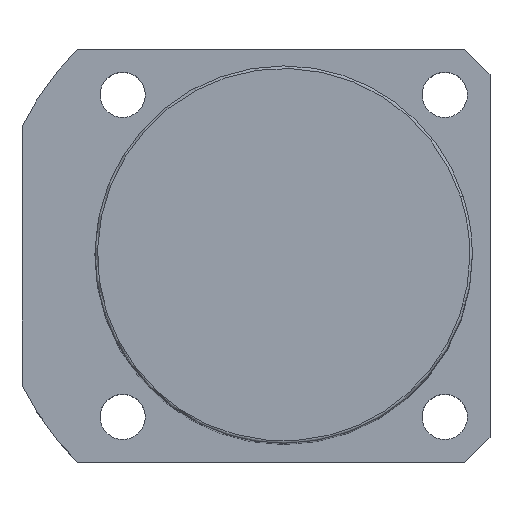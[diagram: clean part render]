
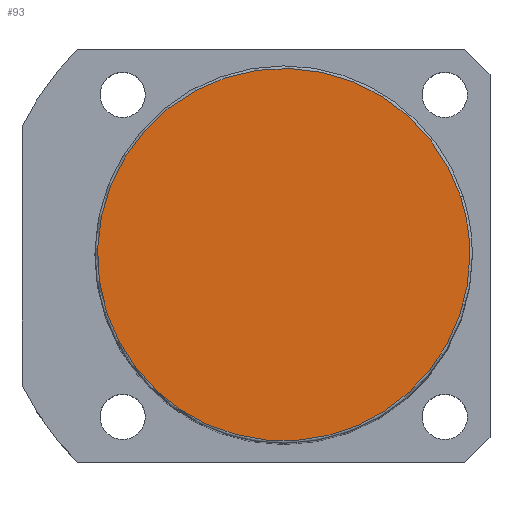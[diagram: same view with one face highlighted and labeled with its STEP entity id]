
A CAD part, top view. The second image highlights one B-rep face of the part: STEP entity #93.
In plain terms, the highlighted planar face has unit normal (0, 0, 1).
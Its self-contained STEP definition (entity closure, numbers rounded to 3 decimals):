
#16=CARTESIAN_POINT('',(35.189,11.434,158.0));
#17=VERTEX_POINT('',#16);
#45=CARTESIAN_POINT('',(-35.189,-11.434,158.0));
#46=VERTEX_POINT('',#45);
#54=CARTESIAN_POINT('',(0.0,0.0,158.0));
#55=DIRECTION('',(0.0,0.0,1.0));
#56=DIRECTION('',(1.0,0.0,0.0));
#57=AXIS2_PLACEMENT_3D('',#54,#55,#56);
#58=CIRCLE('',#57,37.0);
#59=EDGE_CURVE('no 890',#17,#46,#58,.T.);
#69=CARTESIAN_POINT('',(37.0,0.0,158.0));
#70=VERTEX_POINT('',#69);
#71=CARTESIAN_POINT('',(0.0,0.0,158.0));
#72=DIRECTION('',(0.0,0.0,1.0));
#73=DIRECTION('',(1.0,0.0,0.0));
#74=AXIS2_PLACEMENT_3D('',#71,#72,#73);
#75=CIRCLE('',#74,37.0);
#76=EDGE_CURVE('no 899',#70,#17,#75,.T.);
#77=ORIENTED_EDGE('',*,*,#76,.T.);
#78=ORIENTED_EDGE('',*,*,#59,.T.);
#79=CARTESIAN_POINT('',(0.0,0.0,158.0));
#80=DIRECTION('',(0.0,0.0,1.0));
#81=DIRECTION('',(1.0,0.0,0.0));
#82=AXIS2_PLACEMENT_3D('',#79,#80,#81);
#83=CIRCLE('',#82,37.0);
#84=EDGE_CURVE('no 905',#46,#70,#83,.T.);
#85=ORIENTED_EDGE('',*,*,#84,.T.);
#86=EDGE_LOOP('',(#77,#78,#85));
#87=FACE_OUTER_BOUND('',#86,.T.);
#88=CARTESIAN_POINT('',(0.0,0.0,158.0));
#89=DIRECTION('',(0.0,0.0,1.0));
#90=DIRECTION('',(1.0,0.0,0.0));
#91=AXIS2_PLACEMENT_3D('',#88,#89,#90);
#92=PLANE('',#91);
#93=ADVANCED_FACE('no 892',(#87),#92,.T.);
